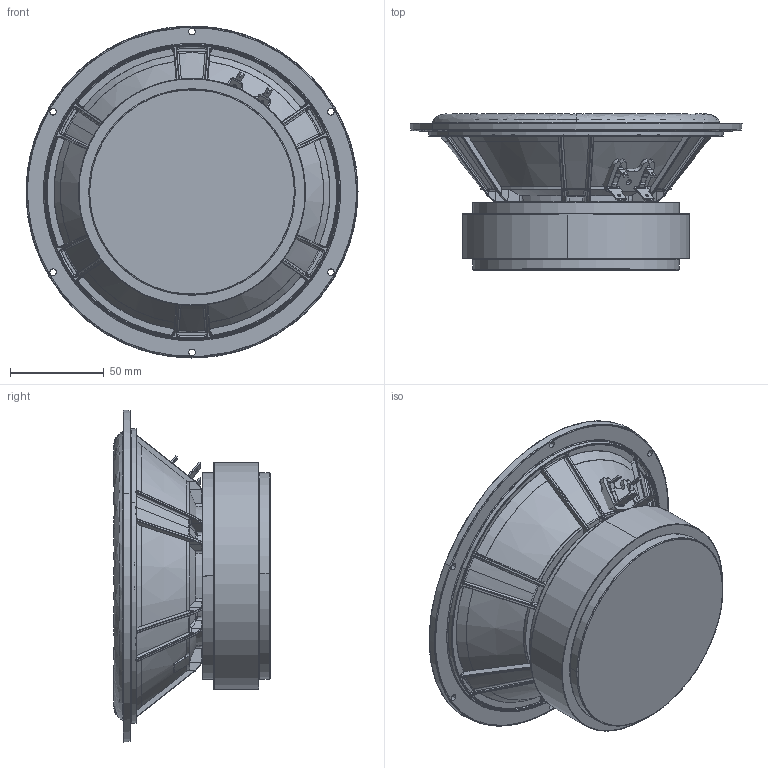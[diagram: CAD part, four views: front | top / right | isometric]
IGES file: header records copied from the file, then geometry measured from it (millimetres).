
Start section: SolidWorks IGES file using analytic representation for surfaces
Global section: file name: W:\TT\18W\18W-8542-10.IGS; native system: SolidWorks 2019; preprocessor: SolidWorks 2019; author: mhn; date: 201217.111448; units: millimetre
Bounding box: 177 x 83.24 x 177 mm (x, y, z)
Surface area: 119969.3 mm2 (no closed solid volume)
Topology: 0 solids, 0 shells, 1264 faces, 10339 edges, 10298 vertices
Faces by surface type: bspline 795, revolution 469
